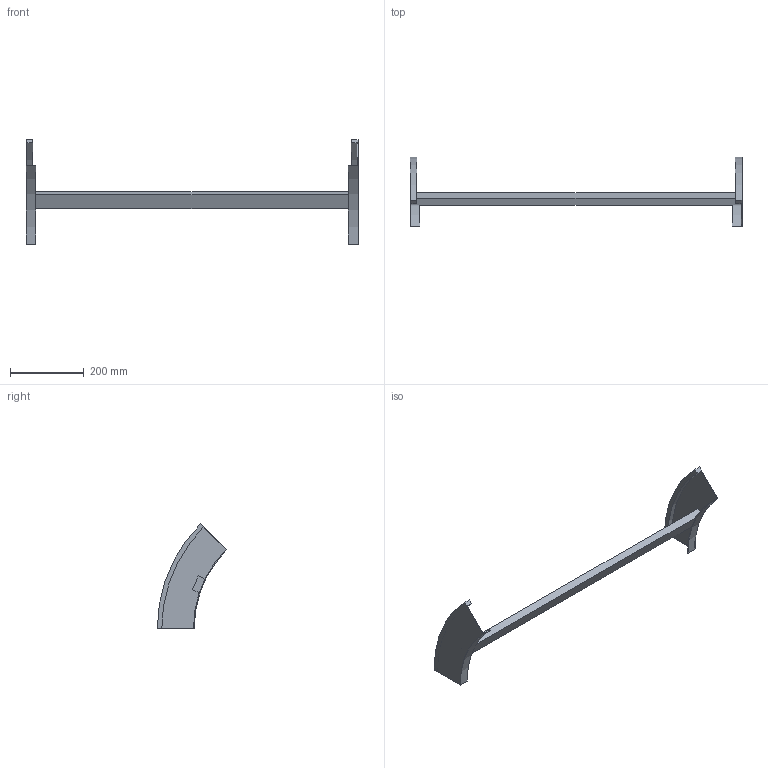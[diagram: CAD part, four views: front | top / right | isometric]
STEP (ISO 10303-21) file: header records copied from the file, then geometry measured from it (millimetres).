
FILE_DESCRIPTION (( 'STEP AP214' ), '1' );
FILE_NAME ('B2_34B3D900.step', '2025-02-21T14:52:27', ( '' ), ( '' ), 'SwSTEP 2.0', 'SolidWorks 2023', '' );
FILE_SCHEMA (( 'AUTOMOTIVE_DESIGN' ));
Length unit declared in the file: millimetre
Products named in the file (3): B2_LONGH.DISCESA_45°_H100_R300; TRAVERSINO_900; B2_34B3D900
Assembly tree (3 placements, depth 2):
  B2_34B3D900
    B2_LONGH.DISCESA_45°_H100_R300  x2
    TRAVERSINO_900
Bounding box: 900 x 187.87 x 282.84 mm (x, y, z)
Volume: 978183.8 mm3; surface area: 267403.9 mm2
Topology: 3 solids, 3 shells, 26 faces, 60 edges, 40 vertices
Faces by surface type: plane 18, cylinder 8
Entity records: 544 total; most frequent: DIRECTION 88, CARTESIAN_POINT 82, ORIENTED_EDGE 72, EDGE_CURVE 36, AXIS2_PLACEMENT_3D 30, LINE 28, VECTOR 28, VERTEX_POINT 24
